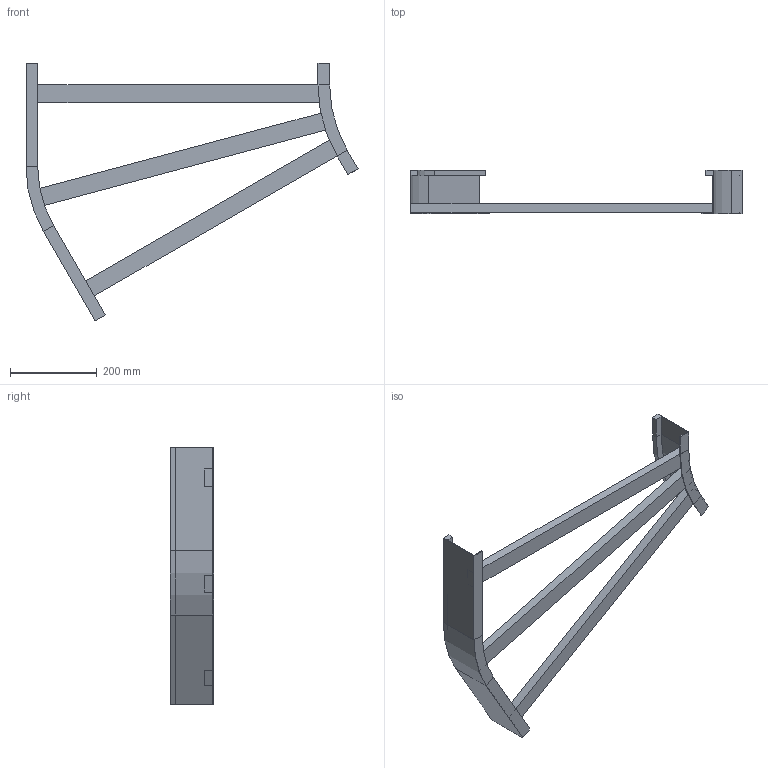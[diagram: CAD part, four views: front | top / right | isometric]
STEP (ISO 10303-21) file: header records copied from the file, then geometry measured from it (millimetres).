
FILE_DESCRIPTION (( 'STEP AP214' ), '1' );
FILE_NAME ('B2_12B3D700.step', '2025-02-21T15:07:59', ( '' ), ( '' ), 'SwSTEP 2.0', 'SolidWorks 2023', '' );
FILE_SCHEMA (( 'AUTOMOTIVE_DESIGN' ));
Length unit declared in the file: millimetre
Products named in the file (5): TRAVERSINO_L719; TRAVERSINO_700; B2_LONGH.ESTERNO 30°_H100_R300+700; B2_LONGH.INTERNO 30°_H100_R300; B2_12B3D700
Assembly tree (5 placements, depth 2):
  B2_12B3D700
    B2_LONGH.INTERNO 30°_H100_R300
    B2_LONGH.ESTERNO 30°_H100_R300+700
    TRAVERSINO_700  x2
    TRAVERSINO_L719
Bounding box: 765.19 x 100 x 593.3 mm (x, y, z)
Volume: 2102975.4 mm3; surface area: 516395.4 mm2
Topology: 5 solids, 5 shells, 70 faces, 148 edges, 88 vertices
Faces by surface type: plane 62, cylinder 8
Entity records: 1822 total; most frequent: DIRECTION 296, CARTESIAN_POINT 288, ORIENTED_EDGE 272, EDGE_CURVE 136, LINE 120, VECTOR 120, AXIS2_PLACEMENT_3D 88, VERTEX_POINT 80
